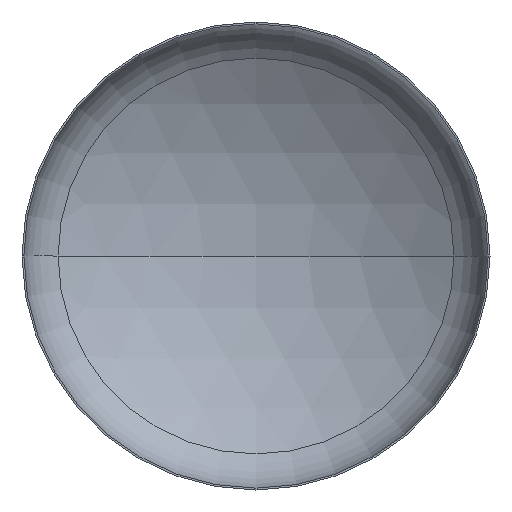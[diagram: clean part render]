
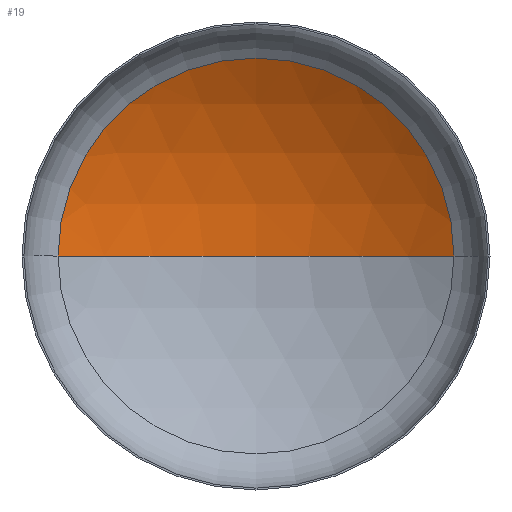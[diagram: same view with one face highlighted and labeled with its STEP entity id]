
A CAD part, front view. The second image highlights one B-rep face of the part: STEP entity #19.
In plain terms, the highlighted spherical face has radius 1600 mm.
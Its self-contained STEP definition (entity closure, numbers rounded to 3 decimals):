
#5 = EDGE_LOOP ( 'NONE', ( #136, #26, #119 ) ) ;
#19 = ADVANCED_FACE ( 'NONE', ( #349 ), #283, .F. ) ;
#21 = VERTEX_POINT ( 'NONE', #240 ) ;
#26 = ORIENTED_EDGE ( 'NONE', *, *, #328, .T. ) ;
#30 = AXIS2_PLACEMENT_3D ( 'NONE', #272, #241, #271 ) ;
#49 = CARTESIAN_POINT ( 'NONE',  ( 0., -1069.978, 0. ) ) ;
#88 = DIRECTION ( 'NONE',  ( 1., 0., 0. ) ) ;
#104 = VERTEX_POINT ( 'NONE', #174 ) ;
#114 = VERTEX_POINT ( 'NONE', #277 ) ;
#119 = ORIENTED_EDGE ( 'NONE', *, *, #318, .T. ) ;
#129 = AXIS2_PLACEMENT_3D ( 'NONE', #389, #152, #88 ) ;
#136 = ORIENTED_EDGE ( 'NONE', *, *, #295, .F. ) ;
#144 = DIRECTION ( 'NONE',  ( -1., 0., 0. ) ) ;
#152 = DIRECTION ( 'NONE',  ( 0., 0., 1. ) ) ;
#174 = CARTESIAN_POINT ( 'NONE',  ( -845.891, 288.134, 0. ) ) ;
#218 = AXIS2_PLACEMENT_3D ( 'NONE', #229, #397, #252 ) ;
#229 = CARTESIAN_POINT ( 'NONE',  ( 0., 288.134, 0. ) ) ;
#240 = CARTESIAN_POINT ( 'NONE',  ( 845.891, 288.134, 0. ) ) ;
#241 = DIRECTION ( 'NONE',  ( 0., 0., -1. ) ) ;
#250 = AXIS2_PLACEMENT_3D ( 'NONE', #49, #352, #144 ) ;
#252 = DIRECTION ( 'NONE',  ( 1., 0., 0. ) ) ;
#271 = DIRECTION ( 'NONE',  ( -1., 0., 0. ) ) ;
#272 = CARTESIAN_POINT ( 'NONE',  ( 0., -1069.978, 0. ) ) ;
#277 = CARTESIAN_POINT ( 'NONE',  ( 0., 530.022, 0. ) ) ;
#283 = SPHERICAL_SURFACE ( 'NONE', #30, 1600. ) ;
#292 = CIRCLE ( 'NONE', #218, 845.891 ) ;
#295 = EDGE_CURVE ( 'NONE', #114, #104, #300, .T. ) ;
#300 = CIRCLE ( 'NONE', #129, 1600. ) ;
#318 = EDGE_CURVE ( 'NONE', #21, #104, #292, .T. ) ;
#328 = EDGE_CURVE ( 'NONE', #114, #21, #351, .T. ) ;
#349 = FACE_OUTER_BOUND ( 'NONE', #5, .T. ) ;
#351 = CIRCLE ( 'NONE', #250, 1600. ) ;
#352 = DIRECTION ( 'NONE',  ( 0., 0., -1. ) ) ;
#389 = CARTESIAN_POINT ( 'NONE',  ( 0., -1069.978, 0. ) ) ;
#397 = DIRECTION ( 'NONE',  ( 0., -1., 0. ) ) ;
